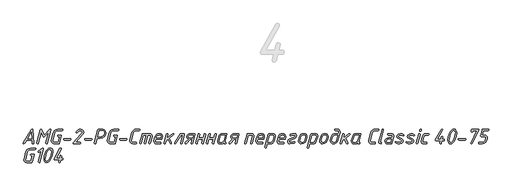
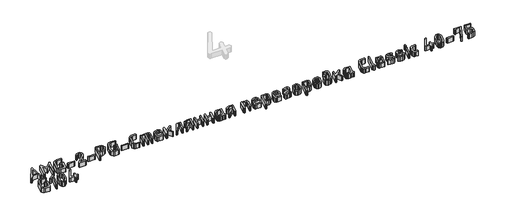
# One storey, part 18 of 22: 1 proxy.
"""IFC4 building model written with IfcOpenShell, lengths in millimetres."""

from ifc_helpers import new_model, si_unit, origin, origin_with_axes, place, context, project, spatial, polyline, outline, extrude, element, save

model = new_model("IFC4")

# Units and contexts
model_context = context("Model", 3, world=origin())
ifc_project = project(units=[si_unit("LENGTHUNIT", "METRE", prefix="MILLI")], contexts=[model_context])

# Site, building, storey
site = spatial("IfcSite", under=ifc_project)
building = spatial("IfcBuilding", under=site)
storey = spatial("IfcBuildingStorey", under=building, Name="Уровень 1", Elevation=0.0)

# Proxy
placement = place(None, origin())
element("IfcBuildingElementProxy", 1, Name="30", ObjectType="30", at=placement, inside=storey, context=model_context, shape_type="SweptSolid", body=[
    extrude(outline(polyline([(-27254.4219264, -9895.2113625), (-27310.5539274, -9895.2113625), (-27331.3287604, -9929.8494015), (-27337.7210168, -9933.5649005), (-27343.0345798, -9931.3276108), (-27345.1919664, -9926.0140477), (-27344.0733215, -9922.0188875), (-27261.4534084, -9786.2633437), (-27254.9812489, -9782.7076511), (-27249.6277342, -9784.4455458), (-27247.4703477, -9789.6592298), (-27237.0429795, -9926.2537573), (-27238.9406806, -9931.7371147), (-27244.6337839, -9933.5649005), (-27249.9573349, -9931.7970421), (-27252.0248303, -9926.493467), (-27254.4219264, -9895.2113625)]), holes=[polyline([(-27255.5405713, -9879.8699473), (-27260.6543764, -9813.3904815), (-27301.3251073, -9879.8699473), (-27255.5405713, -9879.8699473)])]), origin_with_axes(), (0.0, 0.0, 1.0), 50.0),
    extrude(outline(polyline([(-27159.3371135, -9813.3505299), (-27189.9000891, -9927.9716762), (-27192.4370158, -9932.1665945), (-27197.0913775, -9933.5649005), (-27202.3649889, -9931.3276108), (-27204.6821818, -9926.2537573), (-27204.362569, -9923.976516), (-27168.0865143, -9788.3008754), (-27165.5595755, -9784.1059572), (-27160.9351776, -9782.7076511), (-27153.9036956, -9787.2621337), (-27129.8128796, -9844.5527311), (-27073.0816046, -9785.1047472), (-27067.7680415, -9782.7076511), (-27062.1348656, -9784.5654006), (-27060.2571403, -9790.1386491), (-27060.49685, -9792.2960356), (-27096.732953, -9927.9716762), (-27099.3198193, -9932.1665945), (-27103.8842898, -9933.5649005), (-27109.1778771, -9931.3276108), (-27111.5150458, -9926.2537573), (-27111.1554814, -9923.976516), (-27082.5101827, -9816.6665129), (-27127.0961706, -9863.1701777), (-27132.4097337, -9865.4074674), (-27139.2414576, -9860.8929364), (-27159.3371135, -9813.3505299)])), origin_with_axes(), (0.0, 0.0, 1.0), 50.0),
    extrude(outline(polyline([(-26942.6795754, -9798.0490663), (-26991.3406268, -9798.0490663), (-27004.0052846, -9800.8356905), (-27014.512556, -9809.1955633), (-27020.5452479, -9820.5817699), (-27040.7607585, -9895.6907818), (-27041.5597906, -9901.2840061), (-27036.3860581, -9913.5491479), (-27023.5016664, -9918.2234853), (-26984.6287576, -9918.2234853), (-26968.4883104, -9859.4147271), (-26982.2316615, -9859.4147271), (-26987.8648374, -9857.4970502), (-26989.7425627, -9851.7440195), (-26987.8648374, -9845.9909888), (-26982.2316615, -9844.0733119), (-26956.782491, -9844.0733119), (-26952.3478631, -9845.4316663), (-26950.8696539, -9849.5067298), (-26950.9895087, -9851.5442615), (-26971.1251161, -9926.0939509), (-26974.6108934, -9931.6971631), (-26980.9931618, -9933.5649005), (-27027.5767298, -9933.5649005), (-27041.7995002, -9929.4199218), (-27052.8261424, -9916.9849857), (-27057.0210606, -9902.1229897), (-27056.2220285, -9895.8505882), (-27036.1263727, -9820.4219634), (-27026.1784238, -9799.6471304), (-27009.5186057, -9786.9425209), (-26987.2256117, -9782.7076511), (-26942.6795754, -9782.7076511), (-26937.0763632, -9784.625328), (-26935.2086258, -9790.3783587), (-26937.0763632, -9796.1313894), (-26942.6795754, -9798.0490663)])), origin_with_axes(), (0.0, 0.0, 1.0), 50.0),
    extrude(outline(polyline([(-26858.9809691, -9895.2113625), (-26921.0657587, -9895.2113625), (-26926.6689709, -9893.2936856), (-26928.5367083, -9887.5406549), (-26926.6689709, -9881.7876242), (-26921.0657587, -9879.8699473), (-26858.9809691, -9879.8699473), (-26853.3777569, -9881.7876242), (-26851.5100195, -9887.5406549), (-26853.3777569, -9893.2936856), (-26858.9809691, -9895.2113625)])), origin_with_axes(), (0.0, 0.0, 1.0), 50.0),
    extrude(outline(polyline([(-26784.9106988, -9817.8251093), (-26790.4639715, -9820.5418183), (-26795.7575588, -9818.2645769), (-26797.9748727, -9813.0309171), (-26796.137099, -9808.1568216), (-26776.8404752, -9789.5793266), (-26764.8749704, -9784.42557), (-26751.2714499, -9782.7076511), (-26736.3295507, -9786.3532348), (-26725.4627149, -9797.2899858), (-26721.2677967, -9812.4715946), (-26724.6936466, -9827.7430945), (-26734.9711962, -9842.7149574), (-26803.5281454, -9918.2234853), (-26758.5426415, -9918.2234853), (-26752.9094656, -9920.1411622), (-26751.0317403, -9925.8941929), (-26752.9094656, -9931.6472236), (-26758.5426415, -9933.5649005), (-26820.5874795, -9933.5649005), (-26826.1906917, -9931.6871752), (-26828.0584291, -9926.0539993), (-26826.1407522, -9920.9002427), (-26745.7980804, -9832.4873473), (-26738.906429, -9822.5693621), (-26736.6092119, -9813.1108203), (-26741.2935373, -9801.8145048), (-26755.3465133, -9798.0490663), (-26764.8050551, -9800.6359325), (-26775.9215884, -9808.3965312), (-26784.9106988, -9817.8251093)])), origin_with_axes(), (0.0, 0.0, 1.0), 50.0),
    extrude(outline(polyline([(-26639.0873512, -9895.2113625), (-26701.1721409, -9895.2113625), (-26706.7753531, -9893.2936856), (-26708.6430905, -9887.5406549), (-26706.7753531, -9881.7876242), (-26701.1721409, -9879.8699473), (-26639.0873512, -9879.8699473), (-26633.4841391, -9881.7876242), (-26631.6164017, -9887.5406549), (-26633.4841391, -9893.2936856), (-26639.0873512, -9895.2113625)])), origin_with_axes(), (0.0, 0.0, 1.0), 50.0),
    extrude(outline(polyline([(-26548.4771177, -9874.7561423), (-26579.5195126, -9874.7561423), (-26594.1417989, -9928.091531), (-26596.738653, -9932.1965582), (-26601.3330873, -9933.5649005), (-26606.6066988, -9931.3276108), (-26608.9238917, -9926.2537573), (-26608.6042789, -9923.976516), (-26572.9274982, -9790.2585039), (-26569.4716846, -9784.5953643), (-26563.0195009, -9782.7076511), (-26524.1465921, -9782.7076511), (-26507.0173427, -9787.731565), (-26493.8233261, -9802.8033069), (-26488.8293758, -9821.1810439), (-26489.7083111, -9828.7318967), (-26501.7437312, -9853.3620594), (-26522.1090604, -9869.162918), (-26548.4771177, -9874.7561423)]), holes=[polyline([(-26544.4020543, -9859.4147271), (-26527.9519822, -9855.5194459), (-26513.5993691, -9843.8336023), (-26506.6178267, -9832.7769964), (-26504.2906458, -9821.1810439), (-26507.2370765, -9809.3653576), (-26516.0763685, -9801.085388), (-26528.3814619, -9798.0490663), (-26559.3839051, -9798.0490663), (-26575.5243523, -9859.4147271), (-26544.4020543, -9859.4147271)])]), origin_with_axes(), (0.0, 0.0, 1.0), 50.0),
    extrude(outline(polyline([(-26362.2627005, -9798.0490663), (-26410.9237518, -9798.0490663), (-26423.5884096, -9800.8356905), (-26434.095681, -9809.1955633), (-26440.1283729, -9820.5817699), (-26460.3438836, -9895.6907818), (-26461.1429156, -9901.2840061), (-26455.9691831, -9913.5491479), (-26443.0847915, -9918.2234853), (-26404.2118826, -9918.2234853), (-26388.0714354, -9859.4147271), (-26401.8147865, -9859.4147271), (-26407.4479624, -9857.4970502), (-26409.3256877, -9851.7440195), (-26407.4479624, -9845.9909888), (-26401.8147865, -9844.0733119), (-26376.365616, -9844.0733119), (-26371.9309882, -9845.4316663), (-26370.4527789, -9849.5067298), (-26370.5726337, -9851.5442615), (-26390.7082411, -9926.0939509), (-26394.1940184, -9931.6971631), (-26400.5762868, -9933.5649005), (-26447.1598549, -9933.5649005), (-26461.3826252, -9929.4199218), (-26472.4092674, -9916.9849857), (-26476.6041856, -9902.1229897), (-26475.8051536, -9895.8505882), (-26455.7094977, -9820.4219634), (-26445.7615488, -9799.6471304), (-26429.1017307, -9786.9425209), (-26406.8087368, -9782.7076511), (-26362.2627005, -9782.7076511), (-26356.6594883, -9784.625328), (-26354.7917509, -9790.3783587), (-26356.6594883, -9796.1313894), (-26362.2627005, -9798.0490663)])), origin_with_axes(), (0.0, 0.0, 1.0), 50.0),
    extrude(outline(polyline([(-26278.5640941, -9895.2113625), (-26340.6488837, -9895.2113625), (-26346.2520959, -9893.2936856), (-26348.1198333, -9887.5406549), (-26346.2520959, -9881.7876242), (-26340.6488837, -9879.8699473), (-26278.5640941, -9879.8699473), (-26272.9608819, -9881.7876242), (-26271.0931445, -9887.5406549), (-26272.9608819, -9893.2936856), (-26278.5640941, -9895.2113625)])), origin_with_axes(), (0.0, 0.0, 1.0), 50.0),
    extrude(outline(polyline([(-26114.0433968, -9834.4050242), (-26111.4864942, -9830.1501786), (-26106.7722052, -9828.7318967), (-26034.8193698, -9828.7318967), (-26022.5941796, -9831.7382547), (-26014.12444, -9840.7573289), (-26011.0881182, -9852.6629063), (-26011.8871502, -9858.6955982), (-26030.5045968, -9928.0116278), (-26033.091463, -9932.1765824), (-26037.6559336, -9933.5649005), (-26042.9495209, -9931.3675624), (-26045.2866896, -9926.3336606), (-26044.9271252, -9924.0564192), (-26027.4283234, -9858.9752595), (-26026.6292914, -9853.4619384), (-26029.6756011, -9846.4204685), (-26038.81453, -9844.0733119), (-26054.3557032, -9844.0733119), (-26077.0881648, -9928.0116278), (-26079.6750311, -9932.1765824), (-26084.2395016, -9933.5649005), (-26089.5330889, -9931.3675624), (-26091.8702576, -9926.3336606), (-26091.5506448, -9924.0564192), (-26069.8169733, -9844.0733119), (-26100.9792229, -9844.0733119), (-26123.6717329, -9928.0116278), (-26126.268587, -9932.1765824), (-26130.8630212, -9933.5649005), (-26136.1366327, -9931.3475866), (-26138.4538256, -9926.293709), (-26138.1342128, -9924.0164676), (-26114.0433968, -9834.4050242)])), origin_with_axes(), (0.0, 0.0, 1.0), 50.0),
    extrude(outline(polyline([(-26178.7649921, -9918.2234853), (-26173.1318162, -9920.1411622), (-26171.2540909, -9925.8941929), (-26173.1318162, -9931.6472236), (-26178.7649921, -9933.5649005), (-26211.804967, -9933.5649005), (-26226.1575801, -9929.3899581), (-26237.1742344, -9916.8651309), (-26241.2492978, -9901.9232317), (-26240.4502657, -9895.8505882), (-26220.4744647, -9820.4219634), (-26213.6527286, -9803.9219518), (-26203.2153726, -9792.1362292), (-26189.1623966, -9785.0647956), (-26171.4938005, -9782.7076511), (-26142.6087922, -9782.7076511), (-26136.9756163, -9784.625328), (-26135.097891, -9790.3783587), (-26136.9756163, -9796.1313894), (-26142.6087922, -9798.0490663), (-26175.568864, -9798.0490663), (-26188.113667, -9800.8356905), (-26198.7407932, -9809.1955633), (-26204.8933399, -9820.5817699), (-26224.9889957, -9895.6907818), (-26225.7880278, -9901.2840061), (-26220.6142953, -9913.5491479), (-26207.7299036, -9918.2234853), (-26178.7649921, -9918.2234853)])), origin_with_axes(), (0.0, 0.0, 1.0), 50.0),
    extrude(outline(polyline([(-25904.2974858, -9865.4873706), (-25910.3301778, -9887.5406549), (-25972.3750158, -9887.5406549), (-25976.370176, -9902.8820701), (-25977.169208, -9908.4752944), (-25974.1228984, -9915.7864376), (-25964.9839694, -9918.2234853), (-25928.1885439, -9918.2234853), (-25922.555368, -9920.1411622), (-25920.6776427, -9925.8941929), (-25922.555368, -9931.6472236), (-25928.1885439, -9933.5649005), (-25968.9791296, -9933.5649005), (-25978.0381554, -9931.80703), (-25985.7188509, -9926.5334186), (-25990.9624987, -9918.8227594), (-25992.7103812, -9909.7537457), (-25991.9113492, -9903.601199), (-25981.9234487, -9866.1665478), (-25975.066755, -9848.9274315), (-25965.2037032, -9837.4013943), (-25951.4553582, -9830.8992711), (-25932.9427845, -9828.7318967), (-25921.4217413, -9830.804386), (-25911.8683144, -9837.0218541), (-25905.4411005, -9846.2756439), (-25903.2986958, -9857.4570986), (-25904.2974858, -9865.4873706)]), holes=[polyline([(-25919.8786107, -9865.1677578), (-25918.640111, -9857.3771954), (-25923.2345452, -9847.3992827), (-25937.0178479, -9844.0733119), (-25955.9549073, -9849.3469234), (-25962.217321, -9855.9389377), (-25966.3423239, -9865.1677578), (-25968.4198072, -9872.1992397), (-25921.7962876, -9872.1992397), (-25919.8786107, -9865.1677578)])]), origin_with_axes(), (0.0, 0.0, 1.0), 50.0),
    extrude(outline(polyline([(-25845.7284372, -9885.2634136), (-25865.824093, -9900.7246836), (-25873.0952846, -9928.0116278), (-25875.6322114, -9932.1765824), (-25880.286573, -9933.5649005), (-25885.5601845, -9931.3475866), (-25887.8773774, -9926.293709), (-25887.5577646, -9924.0164676), (-25863.4669485, -9834.2851694), (-25860.9400097, -9830.1202149), (-25856.3156118, -9828.7318967), (-25850.6824359, -9830.5796583), (-25848.8047106, -9836.1229431), (-25849.0044686, -9838.2803296), (-25859.3519335, -9876.9534804), (-25798.66545, -9831.2887992), (-25794.1509189, -9828.7318967), (-25788.8972832, -9831.009138), (-25786.5201629, -9836.1229431), (-25789.5964363, -9842.2355382), (-25833.5831502, -9875.9147387), (-25811.410011, -9922.777968), (-25810.610979, -9925.9740961), (-25812.8882203, -9931.2876592), (-25818.241735, -9933.5649005), (-25824.9136525, -9929.2501275), (-25845.7284372, -9885.2634136)])), origin_with_axes(), (0.0, 0.0, 1.0), 50.0),
    extrude(outline(polyline([(-25683.9644004, -9828.7318967), (-25678.3312245, -9830.5796583), (-25676.4534992, -9836.1229431), (-25676.6932088, -9838.2803296), (-25700.9038797, -9928.0116278), (-25703.4907459, -9932.1765824), (-25708.0552164, -9933.5649005), (-25713.3488037, -9931.3675624), (-25715.6859724, -9926.3336606), (-25715.326408, -9924.0564192), (-25693.7525429, -9844.0733119), (-25710.7719254, -9844.0733119), (-25763.8676045, -9930.0491595), (-25769.7404901, -9933.5649005), (-25775.673303, -9931.7770663), (-25777.7308105, -9926.4135638), (-25776.572214, -9922.2186455), (-25721.4789547, -9832.3674925), (-25714.9668436, -9828.7318967), (-25683.9644004, -9828.7318967)])), origin_with_axes(), (0.0, 0.0, 1.0), 50.0),
    extrude(outline(polyline([(-25614.129, -9887.5406549), (-25655.0394405, -9931.2477076), (-25660.3929552, -9933.5649005), (-25665.9861795, -9931.707151), (-25667.9837596, -9926.1339025), (-25665.8263731, -9920.5406783), (-25634.0248978, -9886.5019133), (-25646.2301122, -9878.0321736), (-25650.8445223, -9864.1290161), (-25650.165345, -9858.1362758), (-25644.6220602, -9844.4977976), (-25636.8614615, -9835.4637416), (-25625.97465, -9830.4148579), (-25611.0527266, -9828.7318967), (-25574.2573011, -9828.7318967), (-25568.9637138, -9830.8892832), (-25566.6265451, -9836.0030883), (-25566.9861095, -9838.2803296), (-25591.1568288, -9928.0116278), (-25593.7536829, -9932.1765824), (-25598.3481171, -9933.5649005), (-25603.9513293, -9931.6771873), (-25605.8190667, -9926.0140477), (-25605.6193087, -9923.8167096), (-25596.0708758, -9887.5406549), (-25614.129, -9887.5406549)]), holes=[polyline([(-25623.1181104, -9872.1992397), (-25592.0757156, -9872.1992397), (-25583.8856372, -9844.0733119), (-25615.0478868, -9844.0733119), (-25627.5427504, -9847.5890529), (-25634.8239298, -9858.1362758), (-25635.5031071, -9863.2500809), (-25632.4068579, -9869.96195), (-25623.1181104, -9872.1992397)])]), origin_with_axes(), (0.0, 0.0, 1.0), 50.0),
    extrude(outline(polyline([(-25486.1240669, -9887.5406549), (-25532.7076349, -9887.5406549), (-25543.2548579, -9927.8518214), (-25545.8217483, -9932.1366308), (-25550.5660011, -9933.5649005), (-25555.8196367, -9931.3475866), (-25558.1568055, -9926.293709), (-25557.8371926, -9924.0164676), (-25533.7463766, -9834.2851694), (-25531.2094499, -9830.1202149), (-25526.5550882, -9828.7318967), (-25521.2415251, -9830.80938), (-25518.9642838, -9835.8832335), (-25519.1640418, -9837.9607168), (-25528.7124747, -9872.1992397), (-25482.0090519, -9872.1992397), (-25471.4618289, -9834.125363), (-25468.9348901, -9830.0802632), (-25464.3104922, -9828.7318967), (-25458.6773163, -9830.5796583), (-25456.799591, -9836.1229431), (-25457.0393006, -9838.2803296), (-25481.1301167, -9928.0116278), (-25483.6570555, -9932.1765824), (-25488.2814534, -9933.5649005), (-25493.5550649, -9931.307635), (-25495.8722578, -9926.1339025), (-25495.552645, -9923.8167096), (-25486.1240669, -9887.5406549)])), origin_with_axes(), (0.0, 0.0, 1.0), 50.0),
    extrude(outline(polyline([(-25376.177258, -9887.5406549), (-25422.760826, -9887.5406549), (-25433.308049, -9927.8518214), (-25435.8749394, -9932.1366308), (-25440.6191921, -9933.5649005), (-25445.8728278, -9931.3475866), (-25448.2099965, -9926.293709), (-25447.8903837, -9924.0164676), (-25423.7995677, -9834.2851694), (-25421.2626409, -9830.1202149), (-25416.6082793, -9828.7318967), (-25411.2947162, -9830.80938), (-25409.0174749, -9835.8832335), (-25409.2172329, -9837.9607168), (-25418.7656658, -9872.1992397), (-25372.062243, -9872.1992397), (-25361.51502, -9834.125363), (-25358.9880812, -9830.0802632), (-25354.3636833, -9828.7318967), (-25348.7305074, -9830.5796583), (-25346.8527821, -9836.1229431), (-25347.0924917, -9838.2803296), (-25371.1833077, -9928.0116278), (-25373.7102466, -9932.1765824), (-25378.3346445, -9933.5649005), (-25383.608256, -9931.307635), (-25385.9254489, -9926.1339025), (-25385.6058361, -9923.8167096), (-25376.177258, -9887.5406549)])), origin_with_axes(), (0.0, 0.0, 1.0), 50.0),
    extrude(outline(polyline([(-25309.2982761, -9933.5649005), (-25318.3573019, -9931.8369937), (-25326.0379974, -9926.6532734), (-25331.2816452, -9919.0225174), (-25333.0295278, -9909.9535037), (-25332.2304957, -9903.601199), (-25320.2050635, -9858.6955982), (-25314.6418029, -9844.7924407), (-25306.5815672, -9835.523669), (-25295.7147314, -9830.4298398), (-25281.0924451, -9828.7318967), (-25242.2594878, -9828.7318967), (-25237.3654166, -9830.8693074), (-25236.4265539, -9836.2028463), (-25256.6820162, -9910.7525357), (-25257.001629, -9912.7900674), (-25255.5034439, -9916.8651309), (-25251.0088887, -9918.2234853), (-25245.8051925, -9920.1411622), (-25245.2159064, -9925.8941929), (-25248.5518652, -9931.6472236), (-25254.9640973, -9933.5649005), (-25265.0219131, -9931.3875382), (-25270.4253673, -9924.8554513), (-25279.5742842, -9931.3875382), (-25293.8370061, -9933.5649005), (-25309.2982761, -9933.5649005)]), holes=[polyline([(-25305.3031159, -9918.2234853), (-25289.7619427, -9918.2234853), (-25277.7564863, -9913.6690027), (-25270.0658029, -9903.401441), (-25254.0452104, -9844.0733119), (-25285.0876053, -9844.0733119), (-25297.8321663, -9847.778823), (-25304.7437935, -9858.8953562), (-25316.6893225, -9903.401441), (-25317.4883545, -9908.6750524), (-25314.4420449, -9915.8363771), (-25305.3031159, -9918.2234853)])]), origin_with_axes(), (0.0, 0.0, 1.0), 50.0),
    extrude(outline(polyline([(-25159.0003491, -9887.5406549), (-25199.9107896, -9931.2477076), (-25205.2643043, -9933.5649005), (-25210.8575286, -9931.707151), (-25212.8551087, -9926.1339025), (-25210.6977222, -9920.5406783), (-25178.8962469, -9886.5019133), (-25191.1014614, -9878.0321736), (-25195.7158714, -9864.1290161), (-25195.0366942, -9858.1362758), (-25189.4934094, -9844.4977976), (-25181.7328107, -9835.4637416), (-25170.8459991, -9830.4148579), (-25155.9240757, -9828.7318967), (-25119.1286502, -9828.7318967), (-25113.835063, -9830.8892832), (-25111.4978942, -9836.0030883), (-25111.8574587, -9838.2803296), (-25136.0281779, -9928.0116278), (-25138.625032, -9932.1765824), (-25143.2194663, -9933.5649005), (-25148.8226785, -9931.6771873), (-25150.6904159, -9926.0140477), (-25150.4906579, -9923.8167096), (-25140.942225, -9887.5406549), (-25159.0003491, -9887.5406549)]), holes=[polyline([(-25167.9894596, -9872.1992397), (-25136.9470648, -9872.1992397), (-25128.7569863, -9844.0733119), (-25159.919236, -9844.0733119), (-25172.4140995, -9847.5890529), (-25179.695279, -9858.1362758), (-25180.3744562, -9863.2500809), (-25177.2782071, -9869.96195), (-25167.9894596, -9872.1992397)])]), origin_with_axes(), (0.0, 0.0, 1.0), 50.0),
    extrude(outline(polyline([(-25027.3598203, -9834.4050242), (-25024.8029177, -9830.1501786), (-25020.0886287, -9828.7318967), (-24979.1781882, -9828.7318967), (-24969.8145314, -9830.4198519), (-24962.1787815, -9835.4837174), (-24957.0999341, -9843.1244613), (-24955.4069849, -9852.5430515), (-24956.206017, -9858.6955982), (-24974.8634151, -9928.0116278), (-24977.4303056, -9932.1765824), (-24982.0147519, -9933.5649005), (-24987.2883634, -9931.3675624), (-24989.6055563, -9926.3336606), (-24989.2859435, -9924.0564192), (-24971.7871418, -9858.9752595), (-24970.9881097, -9853.5817932), (-24974.0244315, -9846.4504322), (-24983.1333968, -9844.0733119), (-25014.2956464, -9844.0733119), (-25036.9881564, -9928.0116278), (-25039.5850105, -9932.1765824), (-25044.1794447, -9933.5649005), (-25049.4530562, -9931.3475866), (-25051.7702491, -9926.293709), (-25051.4506363, -9924.0164676), (-25027.3598203, -9834.4050242)])), origin_with_axes(), (0.0, 0.0, 1.0), 50.0),
    extrude(outline(polyline([(-24848.2967398, -9865.4873706), (-24854.3294317, -9887.5406549), (-24916.3742697, -9887.5406549), (-24920.3694299, -9902.8820701), (-24921.1684619, -9908.4752944), (-24918.1221523, -9915.7864376), (-24908.9832233, -9918.2234853), (-24872.1877978, -9918.2234853), (-24866.5546219, -9920.1411622), (-24864.6768966, -9925.8941929), (-24866.5546219, -9931.6472236), (-24872.1877978, -9933.5649005), (-24912.9783835, -9933.5649005), (-24922.0374093, -9931.80703), (-24929.7181048, -9926.5334186), (-24934.9617526, -9918.8227594), (-24936.7096351, -9909.7537457), (-24935.9106031, -9903.601199), (-24925.9227026, -9866.1665478), (-24919.0660089, -9848.9274315), (-24909.2029571, -9837.4013943), (-24895.4546121, -9830.8992711), (-24876.9420384, -9828.7318967), (-24865.4209952, -9830.804386), (-24855.8675683, -9837.0218541), (-24849.4403544, -9846.2756439), (-24847.2979497, -9857.4570986), (-24848.2967398, -9865.4873706)]), holes=[polyline([(-24863.8778646, -9865.1677578), (-24862.6393649, -9857.3771954), (-24867.2337991, -9847.3992827), (-24881.0171019, -9844.0733119), (-24899.9541612, -9849.3469234), (-24906.2165749, -9855.9389377), (-24910.3415778, -9865.1677578), (-24912.4190611, -9872.1992397), (-24865.7955415, -9872.1992397), (-24863.8778646, -9865.1677578)])]), origin_with_axes(), (0.0, 0.0, 1.0), 50.0),
    extrude(outline(polyline([(-24807.4662024, -9834.4449758), (-24804.9092999, -9830.1601665), (-24800.1950109, -9828.7318967), (-24759.2845703, -9828.7318967), (-24750.1206716, -9830.4747853), (-24742.44497, -9835.7034512), (-24737.2462678, -9843.3991286), (-24735.5133671, -9852.5430515), (-24736.3123991, -9858.6955982), (-24748.377783, -9903.601199), (-24753.9260617, -9917.4344412), (-24761.9413519, -9926.6532734), (-24772.972988, -9931.8369937), (-24787.5703046, -9933.5649005), (-24818.5727478, -9933.5649005), (-24829.1599224, -9973.876067), (-24831.6868612, -9978.1608763), (-24836.3112591, -9979.5891461), (-24841.6048464, -9977.3518564), (-24843.9420151, -9972.2780029), (-24843.5824507, -9970.0007616), (-24807.4662024, -9834.4449758)]), holes=[polyline([(-24794.4020286, -9844.0733119), (-24814.6175392, -9918.2234853), (-24783.4952412, -9918.2234853), (-24770.7207164, -9914.5179742), (-24763.7991014, -9903.401441), (-24751.8935239, -9858.8953562), (-24751.0944919, -9853.50189), (-24754.1308137, -9846.4304564), (-24763.2397789, -9844.0733119), (-24794.4020286, -9844.0733119)])]), origin_with_axes(), (0.0, 0.0, 1.0), 50.0),
    extrude(outline(polyline([(-24628.4031219, -9865.4873706), (-24634.4358138, -9887.5406549), (-24696.4806519, -9887.5406549), (-24700.4758121, -9902.8820701), (-24701.2748441, -9908.4752944), (-24698.2285345, -9915.7864376), (-24689.0896055, -9918.2234853), (-24652.29418, -9918.2234853), (-24646.6610041, -9920.1411622), (-24644.7832788, -9925.8941929), (-24646.6610041, -9931.6472236), (-24652.29418, -9933.5649005), (-24693.0847657, -9933.5649005), (-24702.1437915, -9931.80703), (-24709.824487, -9926.5334186), (-24715.0681347, -9918.8227594), (-24716.8160173, -9909.7537457), (-24716.0169853, -9903.601199), (-24706.0290848, -9866.1665478), (-24699.1723911, -9848.9274315), (-24689.3093393, -9837.4013943), (-24675.5609942, -9830.8992711), (-24657.0484206, -9828.7318967), (-24645.5273774, -9830.804386), (-24635.9739505, -9837.0218541), (-24629.5467365, -9846.2756439), (-24627.4043319, -9857.4570986), (-24628.4031219, -9865.4873706)]), holes=[polyline([(-24643.9842467, -9865.1677578), (-24642.7457471, -9857.3771954), (-24647.3401813, -9847.3992827), (-24661.123484, -9844.0733119), (-24680.0605434, -9849.3469234), (-24686.322957, -9855.9389377), (-24690.4479599, -9865.1677578), (-24692.5254433, -9872.1992397), (-24645.9019236, -9872.1992397), (-24643.9842467, -9865.1677578)])]), origin_with_axes(), (0.0, 0.0, 1.0), 50.0),
    extrude(outline(polyline([(-24555.8510125, -9930.6484336), (-24586.9733106, -9933.5649005), (-24594.9037036, -9931.9668364), (-24601.5955969, -9927.1726442), (-24606.1500796, -9920.261017), (-24607.6682404, -9912.3106482), (-24605.9702974, -9903.1517434), (-24600.8764681, -9894.3723789), (-24585.2953433, -9882.7065111), (-24539.9502749, -9864.9679998), (-24532.6990591, -9859.7742915), (-24530.2819872, -9851.6241647), (-24532.5891922, -9845.9610251), (-24539.5108073, -9844.0733119), (-24557.4191129, -9845.6913518), (-24570.9527181, -9850.5454714), (-24574.5883139, -9851.5842131), (-24579.8819012, -9849.3069717), (-24582.0992151, -9844.0733119), (-24578.3437645, -9837.4413459), (-24560.3056162, -9830.909259), (-24535.5156471, -9828.7318967), (-24525.4078918, -9831.4985451), (-24517.7771358, -9839.7984905), (-24514.8207172, -9850.3057618), (-24517.2677528, -9860.823021), (-24524.6088597, -9871.1205465), (-24536.9938564, -9879.3505765), (-24582.3389247, -9896.969233), (-24589.6500679, -9902.2528324), (-24592.0871156, -9910.4329229), (-24589.8198622, -9916.2758447), (-24583.018102, -9918.2234853), (-24561.424261, -9916.4855906), (-24541.8679518, -9911.2719066), (-24539.1512429, -9910.7125841), (-24533.518067, -9912.5903094), (-24531.6403417, -9918.2234853), (-24534.0873773, -9923.477121), (-24541.4284842, -9927.4123538), (-24555.8510125, -9930.6484336)])), origin_with_axes(), (0.0, 0.0, 1.0), 50.0),
    extrude(outline(polyline([(-24494.0858357, -9896.1302494), (-24486.1354669, -9866.1665478), (-24479.2787732, -9848.9274315), (-24469.4157215, -9837.4013943), (-24455.6673764, -9830.8992711), (-24437.1548028, -9828.7318967), (-24425.6337595, -9830.8443376), (-24416.0803327, -9837.1816605), (-24409.6531187, -9846.6152326), (-24407.510714, -9858.016421), (-24408.5095041, -9866.1665478), (-24416.4598729, -9896.1302494), (-24426.3678702, -9917.6641629), (-24441.9889466, -9929.5897161), (-24465.440537, -9933.5649005), (-24476.9665742, -9931.4524596), (-24486.5349829, -9925.1151367), (-24492.9771788, -9915.6815646), (-24495.1245774, -9904.2803762), (-24494.0858357, -9896.1302494)]), holes=[polyline([(-24432.0409977, -9895.970443), (-24424.0906289, -9866.3263542), (-24422.8521292, -9858.016421), (-24427.4465635, -9847.5590892), (-24441.2298662, -9844.0733119), (-24451.8120468, -9845.464127), (-24460.226853, -9849.6365725), (-24466.4742848, -9856.5906482), (-24470.5543421, -9866.3263542), (-24478.6245657, -9895.970443), (-24479.903017, -9904.2803762), (-24475.2985949, -9914.737708), (-24461.4853284, -9918.2234853), (-24450.8656932, -9916.8326702), (-24442.4184264, -9912.6602247), (-24436.1435279, -9905.706149), (-24432.0409977, -9895.970443)])]), origin_with_axes(), (0.0, 0.0, 1.0), 50.0),
    extrude(outline(polyline([(-24367.6789668, -9834.4449758), (-24365.1220642, -9830.1601665), (-24360.4077752, -9828.7318967), (-24319.4973347, -9828.7318967), (-24310.3334359, -9830.4747853), (-24302.6577344, -9835.7034512), (-24297.4590322, -9843.3991286), (-24295.7261314, -9852.5430515), (-24296.5251635, -9858.6955982), (-24308.5905473, -9903.601199), (-24314.138826, -9917.4344412), (-24322.1541162, -9926.6532734), (-24333.1857523, -9931.8369937), (-24347.7830689, -9933.5649005), (-24378.7855121, -9933.5649005), (-24389.3726867, -9973.876067), (-24391.8996255, -9978.1608763), (-24396.5240235, -9979.5891461), (-24401.8176107, -9977.3518564), (-24404.1547795, -9972.2780029), (-24403.795215, -9970.0007616), (-24367.6789668, -9834.4449758)]), holes=[polyline([(-24354.6147929, -9844.0733119), (-24374.8303035, -9918.2234853), (-24343.7080055, -9918.2234853), (-24330.9334808, -9914.5179742), (-24324.0118657, -9903.401441), (-24312.1062883, -9858.8953562), (-24311.3072562, -9853.50189), (-24314.343578, -9846.4304564), (-24323.4525433, -9844.0733119), (-24354.6147929, -9844.0733119)])]), origin_with_axes(), (0.0, 0.0, 1.0), 50.0),
    extrude(outline(polyline([(-24274.1922179, -9896.1302494), (-24266.2418491, -9866.1665478), (-24259.3851554, -9848.9274315), (-24249.5221036, -9837.4013943), (-24235.7737586, -9830.8992711), (-24217.2611849, -9828.7318967), (-24205.7401417, -9830.8443376), (-24196.1867149, -9837.1816605), (-24189.7595009, -9846.6152326), (-24187.6170962, -9858.016421), (-24188.6158863, -9866.1665478), (-24196.5662551, -9896.1302494), (-24206.4742524, -9917.6641629), (-24222.0953288, -9929.5897161), (-24245.5469192, -9933.5649005), (-24257.0729564, -9931.4524596), (-24266.6413651, -9925.1151367), (-24273.0835609, -9915.6815646), (-24275.2309596, -9904.2803762), (-24274.1922179, -9896.1302494)]), holes=[polyline([(-24212.1473799, -9895.970443), (-24204.1970111, -9866.3263542), (-24202.9585114, -9858.016421), (-24207.5529456, -9847.5590892), (-24221.3362484, -9844.0733119), (-24231.918429, -9845.464127), (-24240.3332351, -9849.6365725), (-24246.5806669, -9856.5906482), (-24250.6607243, -9866.3263542), (-24258.7309479, -9895.970443), (-24260.0093992, -9904.2803762), (-24255.404977, -9914.737708), (-24241.5917106, -9918.2234853), (-24230.9720754, -9916.8326702), (-24222.5248085, -9912.6602247), (-24216.24991, -9905.706149), (-24212.1473799, -9895.970443)])]), origin_with_axes(), (0.0, 0.0, 1.0), 50.0),
    extrude(outline(polyline([(-24064.6061134, -9812.8711107), (-24086.6194462, -9895.8505882), (-24093.6059826, -9913.2744806), (-24103.6188528, -9924.8754271), (-24117.3771858, -9931.3925322), (-24135.6001103, -9933.5649005), (-24147.1261475, -9931.4524596), (-24156.6945562, -9925.1151367), (-24163.136752, -9915.6815646), (-24165.2841506, -9904.2803762), (-24164.245409, -9896.1302494), (-24156.2950402, -9866.1665478), (-24149.4383465, -9848.9274315), (-24139.5752947, -9837.4013943), (-24125.8269496, -9830.8992711), (-24107.314376, -9828.7318967), (-24084.022592, -9828.7318967), (-24080.0274318, -9813.3904815), (-24079.2683514, -9807.7972572), (-24082.3346368, -9800.486114), (-24091.5334932, -9798.0490663), (-24112.7877455, -9798.0490663), (-24118.3909577, -9796.1313894), (-24120.2586951, -9790.3783587), (-24118.3909577, -9784.625328), (-24112.7877455, -9782.7076511), (-24087.538333, -9782.7076511), (-24078.404398, -9784.4655216), (-24070.7386843, -9789.7391331), (-24065.5399821, -9797.4997318), (-24063.8070814, -9806.7185639), (-24064.6061134, -9812.8711107)]), holes=[polyline([(-24102.200571, -9895.970443), (-24088.0976554, -9844.0733119), (-24111.3894394, -9844.0733119), (-24121.97162, -9845.464127), (-24130.3864262, -9849.6365725), (-24136.633858, -9856.5906482), (-24140.7139154, -9866.3263542), (-24148.784139, -9895.970443), (-24150.0625903, -9904.2803762), (-24145.4581681, -9914.737708), (-24131.6449017, -9918.2234853), (-24121.0252665, -9916.8326702), (-24112.5779996, -9912.6602247), (-24106.3031011, -9905.706149), (-24102.200571, -9895.970443)])]), origin_with_axes(), (0.0, 0.0, 1.0), 50.0),
    extrude(outline(polyline([(-24020.1000287, -9885.2634136), (-24040.1956845, -9900.7246836), (-24047.4668761, -9928.0116278), (-24050.0038029, -9932.1765824), (-24054.6581645, -9933.5649005), (-24059.931776, -9931.3475866), (-24062.2489689, -9926.293709), (-24061.9293561, -9924.0164676), (-24037.83854, -9834.2851694), (-24035.3116012, -9830.1202149), (-24030.6872032, -9828.7318967), (-24025.0540274, -9830.5796583), (-24023.1763021, -9836.1229431), (-24023.3760601, -9838.2803296), (-24033.723525, -9876.9534804), (-23973.0370415, -9831.2887992), (-23968.5225104, -9828.7318967), (-23963.2688747, -9831.009138), (-23960.8917544, -9836.1229431), (-23963.9680278, -9842.2355382), (-24007.9547417, -9875.9147387), (-23985.7816025, -9922.777968), (-23984.9825705, -9925.9740961), (-23987.2598118, -9931.2876592), (-23992.6133265, -9933.5649005), (-23999.285244, -9929.2501275), (-24020.1000287, -9885.2634136)])), origin_with_axes(), (0.0, 0.0, 1.0), 50.0),
    extrude(outline(polyline([(-23923.4571033, -9933.5649005), (-23932.516129, -9931.8369937), (-23940.1968245, -9926.6532734), (-23945.4404723, -9919.0225174), (-23947.1883549, -9909.9535037), (-23946.3893229, -9903.601199), (-23934.3638906, -9858.6955982), (-23928.8006301, -9844.7924407), (-23920.7403943, -9835.523669), (-23909.8735586, -9830.4298398), (-23895.2512722, -9828.7318967), (-23856.418315, -9828.7318967), (-23851.5242437, -9830.8693074), (-23850.5853811, -9836.2028463), (-23870.8408433, -9910.7525357), (-23871.1604562, -9912.7900674), (-23869.6622711, -9916.8651309), (-23865.1677158, -9918.2234853), (-23859.9640197, -9920.1411622), (-23859.3747335, -9925.8941929), (-23862.7106923, -9931.6472236), (-23869.1229244, -9933.5649005), (-23879.1807403, -9931.3875382), (-23884.5841945, -9924.8554513), (-23893.7331113, -9931.3875382), (-23907.9958333, -9933.5649005), (-23923.4571033, -9933.5649005)]), holes=[polyline([(-23919.4619431, -9918.2234853), (-23903.9207699, -9918.2234853), (-23891.9153134, -9913.6690027), (-23884.22463, -9903.401441), (-23868.2040376, -9844.0733119), (-23899.2464324, -9844.0733119), (-23911.9909935, -9847.778823), (-23918.9026206, -9858.8953562), (-23930.8481497, -9903.401441), (-23931.6471817, -9908.6750524), (-23928.600872, -9915.8363771), (-23919.4619431, -9918.2234853)])]), origin_with_axes(), (0.0, 0.0, 1.0), 50.0),
    extrude(outline(polyline([(-23706.2402428, -9918.2234853), (-23700.6070669, -9920.1411622), (-23698.7293416, -9925.8941929), (-23700.6070669, -9931.6472236), (-23706.2402428, -9933.5649005), (-23739.2802177, -9933.5649005), (-23750.1520474, -9931.0629314), (-23759.7554138, -9923.5570242), (-23766.4822648, -9913.1446379), (-23768.7245484, -9901.9232317), (-23767.9255164, -9895.8505882), (-23747.9497154, -9820.4219634), (-23741.1279793, -9803.9219518), (-23730.6906233, -9792.1362292), (-23716.6376472, -9785.0647956), (-23698.9690512, -9782.7076511), (-23670.0840429, -9782.7076511), (-23664.450867, -9784.625328), (-23662.5731417, -9790.3783587), (-23664.450867, -9796.1313894), (-23670.0840429, -9798.0490663), (-23703.0441146, -9798.0490663), (-23712.5126443, -9799.687082), (-23721.3419484, -9804.601129), (-23728.3534545, -9811.8723206), (-23732.3685905, -9820.5817699), (-23752.4642464, -9895.6907818), (-23753.2632784, -9901.2840061), (-23748.089546, -9913.5491479), (-23735.2051543, -9918.2234853), (-23706.2402428, -9918.2234853)])), origin_with_axes(), (0.0, 0.0, 1.0), 50.0),
    extrude(outline(polyline([(-23642.8770019, -9918.4631949), (-23637.243826, -9920.3509081), (-23635.3661007, -9926.0140477), (-23637.243826, -9931.6771873), (-23642.8770019, -9933.5649005), (-23656.9000142, -9928.3711923), (-23661.3646057, -9922.5582342), (-23662.8528029, -9915.5067764), (-23662.1736257, -9910.9522938), (-23629.4532636, -9788.3008754), (-23626.8963611, -9784.1059572), (-23622.182072, -9782.7076511), (-23616.5488961, -9784.5654006), (-23614.6711708, -9790.1386491), (-23614.9108804, -9792.2960356), (-23646.6324525, -9910.9522938), (-23647.1917749, -9914.3481799), (-23642.8770019, -9918.4631949)])), origin_with_axes(), (0.0, 0.0, 1.0), 50.0),
    extrude(outline(polyline([(-23534.9277731, -9933.5649005), (-23575.7183588, -9933.5649005), (-23584.7624027, -9931.7620845), (-23592.3981527, -9926.3536364), (-23597.5968549, -9918.4482131), (-23599.3297556, -9909.1544717), (-23596.4931919, -9893.353613), (-23587.9835006, -9881.507963), (-23575.5485645, -9874.5264206), (-23559.5779116, -9872.1992397), (-23528.4156619, -9872.1992397), (-23524.4604533, -9858.1362758), (-23523.6614213, -9853.0224707), (-23526.7277068, -9846.3106016), (-23535.9265631, -9844.0733119), (-23565.1311842, -9844.0733119), (-23570.7643601, -9842.155635), (-23572.6420854, -9836.4026043), (-23570.7643601, -9830.6495736), (-23565.1311842, -9828.7318967), (-23531.8514997, -9828.7318967), (-23522.6526433, -9830.4598035), (-23515.0318752, -9835.6435238), (-23509.9080823, -9843.3242193), (-23508.2001513, -9852.5430515), (-23508.9991833, -9858.6955982), (-23527.6565815, -9927.891773), (-23530.2534356, -9932.1466187), (-23534.9277731, -9933.5649005)]), holes=[polyline([(-23532.530677, -9887.5406549), (-23563.5331202, -9887.5406549), (-23571.7731381, -9888.9938945), (-23578.2752613, -9893.353613), (-23582.5001432, -9900.0405124), (-23583.9084372, -9908.4752944), (-23580.8321639, -9915.7864376), (-23571.6033438, -9918.2234853), (-23540.6009006, -9918.2234853), (-23532.530677, -9887.5406549)])]), origin_with_axes(), (0.0, 0.0, 1.0), 50.0),
    extrude(outline(polyline([(-23415.1928217, -9849.986149), (-23428.207056, -9845.5515212), (-23445.4361844, -9844.0733119), (-23456.1032622, -9848.3081817), (-23460.53789, -9858.6556466), (-23456.4628266, -9866.446209), (-23424.5015449, -9883.3856883), (-23414.6135234, -9891.5058514), (-23411.3175163, -9901.8033769), (-23415.4724829, -9917.2946106), (-23427.9373827, -9928.9305147), (-23446.3151197, -9933.5649005), (-23466.860231, -9931.3875382), (-23488.9434791, -9924.8554513), (-23492.5790749, -9918.2234853), (-23490.4216884, -9912.9298981), (-23485.0681737, -9910.7125841), (-23481.6722875, -9911.5116162), (-23464.3932196, -9916.545518), (-23442.3599111, -9918.2234853), (-23431.8526397, -9913.7089543), (-23427.1383507, -9903.401441), (-23428.8662575, -9898.577285), (-23434.0499778, -9894.4922337), (-23463.0548409, -9879.1108669), (-23472.9128988, -9870.5911878), (-23476.198918, -9859.0152111), (-23472.0539393, -9844.1032756), (-23459.6190032, -9833.0067181), (-23441.4410242, -9828.7318967), (-23422.7536623, -9831.0890412), (-23405.7642436, -9838.1604748), (-23403.0475346, -9844.0733119), (-23405.2648485, -9849.3668992), (-23410.5184842, -9851.5842131), (-23415.1928217, -9849.986149)])), origin_with_axes(), (0.0, 0.0, 1.0), 50.0),
    extrude(outline(polyline([(-23305.2460127, -9849.986149), (-23318.2602471, -9845.5515212), (-23335.4893755, -9844.0733119), (-23346.1564533, -9848.3081817), (-23350.5910811, -9858.6556466), (-23346.5160177, -9866.446209), (-23314.554736, -9883.3856883), (-23304.6667145, -9891.5058514), (-23301.3707073, -9901.8033769), (-23305.525674, -9917.2946106), (-23317.9905738, -9928.9305147), (-23336.3683108, -9933.5649005), (-23356.9134221, -9931.3875382), (-23378.9966702, -9924.8554513), (-23382.632266, -9918.2234853), (-23380.4748794, -9912.9298981), (-23375.1213648, -9910.7125841), (-23371.7254786, -9911.5116162), (-23354.4464107, -9916.545518), (-23332.4131021, -9918.2234853), (-23321.9058308, -9913.7089543), (-23317.1915418, -9903.401441), (-23318.9194485, -9898.577285), (-23324.1031689, -9894.4922337), (-23353.108032, -9879.1108669), (-23362.9660898, -9870.5911878), (-23366.2521091, -9859.0152111), (-23362.1071304, -9844.1032756), (-23349.6721942, -9833.0067181), (-23331.4942153, -9828.7318967), (-23312.8068534, -9831.0890412), (-23295.8174346, -9838.1604748), (-23293.1007257, -9844.0733119), (-23295.3180396, -9849.3668992), (-23300.5716753, -9851.5842131), (-23305.2460127, -9849.986149)])), origin_with_axes(), (0.0, 0.0, 1.0), 50.0),
    extrude(outline(polyline([(-23174.4844191, -9933.5649005), (-23199.8536865, -9933.5649005), (-23208.9127122, -9931.80703), (-23216.5934077, -9926.5334186), (-23221.8370555, -9918.8227594), (-23223.5849381, -9909.7537457), (-23222.785906, -9903.601199), (-23210.7604738, -9858.6955982), (-23202.909984, -9841.4664698), (-23190.5449632, -9831.80817), (-23171.6478554, -9828.7318967), (-23150.3136999, -9828.7318967), (-23144.680524, -9830.6495736), (-23142.8027987, -9836.4026043), (-23144.680524, -9842.155635), (-23150.3136999, -9844.0733119), (-23175.6430156, -9844.0733119), (-23188.3875767, -9847.778823), (-23195.2992038, -9858.8953562), (-23207.2447328, -9903.401441), (-23208.1236681, -9908.11573), (-23205.0573826, -9915.6965465), (-23195.8585263, -9918.2234853), (-23174.4844191, -9918.2234853), (-23168.8812069, -9920.1411622), (-23167.0134696, -9925.8941929), (-23168.8812069, -9931.6472236), (-23174.4844191, -9933.5649005)])), origin_with_axes(), (0.0, 0.0, 1.0), 50.0),
    extrude(outline(polyline([(-23250.4324147, -9834.125363), (-23247.895488, -9829.9604084), (-23243.2411263, -9828.5720903), (-23237.9275632, -9830.7294768), (-23235.6503219, -9835.9631367), (-23235.8500799, -9838.1205232), (-23259.940896, -9928.0116278), (-23262.5077864, -9932.1765824), (-23267.2520392, -9933.5649005), (-23272.5056748, -9931.3475866), (-23274.8428436, -9926.293709), (-23274.5232307, -9924.0164676), (-23250.4324147, -9834.125363)])), origin_with_axes(), (0.0, 0.0, 1.0), 50.0),
    extrude(outline(polyline([(-23240.2847078, -9795.6919218), (-23238.2471761, -9788.3008754), (-23235.7202372, -9784.1059572), (-23231.0958393, -9782.7076511), (-23225.4626634, -9784.5554127), (-23223.5849381, -9790.0986975), (-23223.8246477, -9792.256084), (-23225.8621794, -9799.6471304), (-23228.4490456, -9803.8420486), (-23233.0135162, -9805.2403547), (-23238.6466921, -9803.3925931), (-23240.5244174, -9797.8493083), (-23240.2847078, -9795.6919218)])), origin_with_axes(), (0.0, 0.0, 1.0), 50.0),
    extrude(outline(polyline([(-23005.6489488, -9887.5406549), (-22992.2252105, -9887.5406549), (-22986.5920346, -9889.4583318), (-22984.7143093, -9895.2113625), (-22986.5920346, -9900.9643932), (-22992.2252105, -9902.8820701), (-23009.6041574, -9902.8820701), (-23016.0763169, -9927.8518214), (-23018.6132436, -9932.1366308), (-23023.2676053, -9933.5649005), (-23029.0505997, -9931.6172599), (-23030.9782645, -9925.7743381), (-23030.7385549, -9923.9365644), (-23025.1852822, -9902.8820701), (-23069.8511733, -9902.8820701), (-23075.1647364, -9900.6647562), (-23077.3221229, -9895.3711689), (-23076.3233328, -9891.6157183), (-23017.1150586, -9786.4631017), (-23010.642899, -9782.7076511), (-23004.919832, -9784.5554127), (-23003.012143, -9790.0986975), (-23004.0508847, -9793.8141965), (-23056.9867574, -9887.5406549), (-23021.190122, -9887.5406549), (-23014.5981076, -9862.9704197), (-23012.0711688, -9858.8953562), (-23007.4467709, -9857.5370018), (-23001.7536676, -9859.3547997), (-22999.8559665, -9864.8081934), (-23000.0557245, -9866.8457251), (-23005.6489488, -9887.5406549)])), origin_with_axes(), (0.0, 0.0, 1.0), 50.0),
    extrude(outline(polyline([(-22876.8449837, -9895.1714109), (-22886.4408591, -9911.9685626), (-22897.290216, -9923.9665281), (-22909.3930545, -9931.1653074), (-22922.7493745, -9933.5649005), (-22933.4813736, -9931.2801683), (-22941.1470872, -9924.4259716), (-22945.7465154, -9913.0023103), (-22947.2796581, -9897.0091846), (-22942.5154296, -9860.623263), (-22928.2227439, -9821.2209955), (-22918.6268685, -9804.3714073), (-22907.7775116, -9792.3359872), (-22895.6746731, -9785.1147351), (-22882.3183532, -9782.7076511), (-22871.586354, -9784.9998743), (-22863.9206404, -9791.8765438), (-22859.3212122, -9803.3376596), (-22857.7880695, -9819.3832218), (-22862.552298, -9855.8290708), (-22876.8449837, -9895.1714109)]), holes=[polyline([(-22879.3619346, -9858.1362758), (-22873.1294847, -9819.662883), (-22876.4654434, -9803.4525205), (-22886.4733198, -9798.0490663), (-22893.8144266, -9800.2039558), (-22901.2554125, -9806.6686244), (-22916.4370213, -9832.5272989), (-22925.705793, -9858.1362758), (-22931.9382429, -9896.6096686), (-22928.6022842, -9912.8200311), (-22918.5944078, -9918.2234853), (-22911.2607919, -9916.0685958), (-22903.8422788, -9909.6039272), (-22888.7505611, -9883.7452527), (-22879.3619346, -9858.1362758)])]), origin_with_axes(), (0.0, 0.0, 1.0), 50.0),
    extrude(outline(polyline([(-22770.4938189, -9895.2113625), (-22832.5786086, -9895.2113625), (-22838.1818208, -9893.2936856), (-22840.0495582, -9887.5406549), (-22838.1818208, -9881.7876242), (-22832.5786086, -9879.8699473), (-22770.4938189, -9879.8699473), (-22764.8906067, -9881.7876242), (-22763.0228693, -9887.5406549), (-22764.8906067, -9893.2936856), (-22770.4938189, -9895.2113625)])), origin_with_axes(), (0.0, 0.0, 1.0), 50.0),
    extrude(outline(polyline([(-22646.4840461, -9798.5684371), (-22690.3509052, -9798.5684371), (-22692.2685821, -9806.9582735), (-22695.4746981, -9812.4516188), (-22701.2576925, -9813.4304331), (-22706.2816065, -9809.6949583), (-22706.8109652, -9803.202823), (-22704.0942563, -9791.0575359), (-22701.4774263, -9785.42436), (-22696.5833551, -9783.5466347), (-22634.5385171, -9783.5466347), (-22628.9053412, -9785.42436), (-22627.0276159, -9791.0575359), (-22627.7067931, -9794.4534221), (-22694.985291, -9929.4898371), (-22699.4199188, -9933.2053361), (-22705.4126592, -9933.1254329), (-22708.8484969, -9928.3312407), (-22708.4090293, -9922.777968), (-22646.4840461, -9798.5684371)])), origin_with_axes(), (0.0, 0.0, 1.0), 50.0),
    extrude(outline(polyline([(-22593.787883, -9933.5649005), (-22622.7927461, -9933.5649005), (-22628.3959583, -9931.6472236), (-22630.2636956, -9925.8941929), (-22628.3959583, -9920.1411622), (-22622.7927461, -9918.2234853), (-22589.8326743, -9918.2234853), (-22579.2579847, -9916.8451551), (-22570.8256997, -9912.7101642), (-22564.5358193, -9905.8185129), (-22560.3883436, -9896.170201), (-22556.3132802, -9881.4680114), (-22555.0348289, -9873.2379814), (-22559.6991785, -9862.8705407), (-22573.6922271, -9859.4147271), (-22602.6571386, -9859.4147271), (-22607.9507259, -9857.0975342), (-22610.1680398, -9851.7440195), (-22609.9283302, -9849.786391), (-22593.9077378, -9788.5006334), (-22591.3508352, -9784.1558967), (-22586.6365462, -9782.7076511), (-22532.342319, -9782.7076511), (-22526.7091431, -9784.625328), (-22524.8314178, -9790.3783587), (-22526.7091431, -9796.1313894), (-22532.342319, -9798.0490663), (-22580.8435639, -9798.0490663), (-22592.9089477, -9844.0733119), (-22569.5772121, -9844.0733119), (-22557.6916105, -9846.0908678), (-22548.1631534, -9852.1435355), (-22541.9007398, -9861.4522588), (-22539.8132685, -9873.2379814), (-22540.8520102, -9881.3481566), (-22544.9270736, -9896.2900558), (-22554.9049862, -9917.754054), (-22570.2963409, -9929.7295467), (-22593.787883, -9933.5649005)])), origin_with_axes(), (0.0, 0.0, 1.0), 50.0),
    extrude(outline(polyline([(-27223.9388541, -9994.0733119), (-27272.5999054, -9994.0733119), (-27285.2645632, -9996.8599361), (-27295.7718346, -10005.2198089), (-27301.8045265, -10016.6060154), (-27322.0200371, -10091.7150274), (-27322.8190692, -10097.3082516), (-27317.6453367, -10109.5733935), (-27304.7609451, -10114.2477309), (-27265.8880362, -10114.2477309), (-27249.747589, -10055.4389727), (-27263.4909401, -10055.4389727), (-27269.124116, -10053.5212958), (-27271.0018413, -10047.7682651), (-27269.124116, -10042.0152344), (-27263.4909401, -10040.0975575), (-27238.0417696, -10040.0975575), (-27233.6071418, -10041.4559119), (-27232.1289325, -10045.5309754), (-27232.2487873, -10047.5685071), (-27252.3843947, -10122.1181965), (-27255.870172, -10127.7214087), (-27262.2524404, -10129.5891461), (-27308.8360085, -10129.5891461), (-27323.0587788, -10125.4441674), (-27334.085421, -10113.0092313), (-27338.2803392, -10098.1472353), (-27337.4813072, -10091.8748338), (-27317.3856513, -10016.446209), (-27307.4377024, -9995.671376), (-27290.7778843, -9982.9667665), (-27268.4848904, -9978.7318967), (-27223.9388541, -9978.7318967), (-27218.3356419, -9980.6495736), (-27216.4679045, -9986.4026043), (-27218.3356419, -9992.155635), (-27223.9388541, -9994.0733119)])), origin_with_axes(), (0.0, 0.0, 1.0), 50.0),
    extrude(outline(polyline([(-27158.2184686, -10005.8190829), (-27179.6724789, -10022.3190945), (-27185.2657032, -10023.7973038), (-27190.3195809, -10021.0206675), (-27191.7378628, -10015.3675158), (-27188.7814442, -10010.3735655), (-27149.7087774, -9981.2887992), (-27145.2741496, -9978.7318967), (-27139.6409737, -9980.5896462), (-27137.7632484, -9986.1628947), (-27138.002958, -9988.3202812), (-27174.2390611, -10123.9959218), (-27176.8259273, -10128.19084), (-27181.3903978, -10129.5891461), (-27186.6839851, -10127.3518564), (-27189.0211538, -10122.2780029), (-27188.6615894, -10120.0007616), (-27158.2184686, -10005.8190829)])), origin_with_axes(), (0.0, 0.0, 1.0), 50.0),
    extrude(outline(polyline([(-27059.9375275, -10091.1956565), (-27069.5334029, -10107.9928082), (-27080.3827599, -10119.9907737), (-27092.4855983, -10127.189553), (-27105.8419183, -10129.5891461), (-27116.5739174, -10127.3044139), (-27124.2396311, -10120.4502171), (-27128.8390593, -10109.0265559), (-27130.372202, -10093.0334302), (-27125.6079734, -10056.6475086), (-27111.3152878, -10017.2452411), (-27101.7194124, -10000.3956529), (-27090.8700554, -9988.3602328), (-27078.767217, -9981.1389807), (-27065.410897, -9978.7318967), (-27054.6788979, -9981.0241198), (-27047.0131843, -9987.9007894), (-27042.4137561, -9999.3619052), (-27040.8806133, -10015.4074674), (-27045.6448419, -10051.8533164), (-27059.9375275, -10091.1956565)]), holes=[polyline([(-27062.4544785, -10054.1605214), (-27056.2220285, -10015.6871286), (-27059.5579873, -9999.4767661), (-27069.5658636, -9994.0733119), (-27076.9069705, -9996.2282014), (-27084.3479564, -10002.69287), (-27099.5295652, -10028.5515445), (-27108.7983369, -10054.1605214), (-27115.0307868, -10092.6339142), (-27111.694828, -10108.8442767), (-27101.6869517, -10114.2477309), (-27094.3533357, -10112.0928414), (-27086.9348226, -10105.6281728), (-27071.8431049, -10079.7694983), (-27062.4544785, -10054.1605214)])]), origin_with_axes(), (0.0, 0.0, 1.0), 50.0),
    extrude(outline(polyline([(-26953.5064596, -10083.5649005), (-26940.0827213, -10083.5649005), (-26934.4495454, -10085.4825774), (-26932.5718201, -10091.2356081), (-26934.4495454, -10096.9886388), (-26940.0827213, -10098.9063157), (-26957.4616682, -10098.9063157), (-26963.9338277, -10123.876067), (-26966.4707545, -10128.1608763), (-26971.1251161, -10129.5891461), (-26976.9081105, -10127.6415055), (-26978.8357753, -10121.7985837), (-26978.5960657, -10119.96081), (-26973.042793, -10098.9063157), (-27017.7086841, -10098.9063157), (-27023.0222472, -10096.6890018), (-27025.1796337, -10091.3954145), (-27024.1808437, -10087.6399639), (-26964.9725694, -9982.4873473), (-26958.5004099, -9978.7318967), (-26952.7773429, -9980.5796583), (-26950.8696539, -9986.1229431), (-26951.9083955, -9989.8384421), (-27004.8442683, -10083.5649005), (-26969.0476328, -10083.5649005), (-26962.4556185, -10058.9946653), (-26959.9286796, -10054.9196018), (-26955.3042817, -10053.5612474), (-26949.6111784, -10055.3790453), (-26947.7134773, -10060.8324389), (-26947.9132353, -10062.8699707), (-26953.5064596, -10083.5649005)])), origin_with_axes(), (0.0, 0.0, 1.0), 50.0),
])

save(model, "model.ifc")
